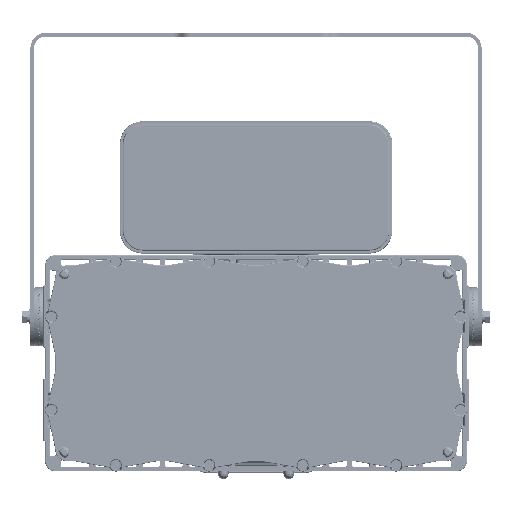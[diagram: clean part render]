
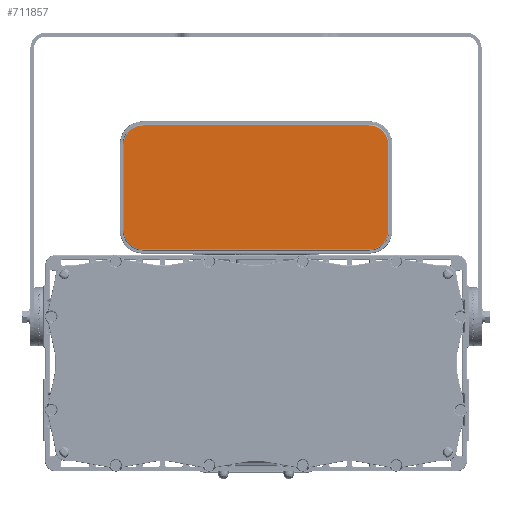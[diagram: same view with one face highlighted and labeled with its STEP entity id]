
A CAD part, front view. The second image highlights one B-rep face of the part: STEP entity #711857.
In plain terms, the highlighted planar face has unit normal (0, -1, 0).
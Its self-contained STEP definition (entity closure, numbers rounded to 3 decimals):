
#284780=DIRECTION('',(-1.,0.,0.));
#284781=VECTOR('',#284780,9.68);
#284782=CARTESIAN_POINT('',(4.84,-0.917,10.178));
#284783=LINE('',#284782,#284781);
#284784=CARTESIAN_POINT('',(4.84,-0.917,9.365));
#284785=DIRECTION('',(0.,-1.,0.));
#284786=DIRECTION('',(1.,0.,0.));
#284787=AXIS2_PLACEMENT_3D('',#284784,#284785,#284786);
#284789=DIRECTION('',(0.,0.,1.));
#284790=VECTOR('',#284789,3.68);
#284791=CARTESIAN_POINT('',(5.653,-0.917,5.685));
#284792=LINE('',#284791,#284790);
#284793=CARTESIAN_POINT('',(4.84,-0.917,5.685));
#284794=DIRECTION('',(0.,-1.,0.));
#284795=DIRECTION('',(0.,0.,-1.));
#284796=AXIS2_PLACEMENT_3D('',#284793,#284794,#284795);
#284798=DIRECTION('',(1.,0.,0.));
#284799=VECTOR('',#284798,9.68);
#284800=CARTESIAN_POINT('',(-4.84,-0.917,4.872));
#284801=LINE('',#284800,#284799);
#284802=CARTESIAN_POINT('',(-4.84,-0.917,5.685));
#284803=DIRECTION('',(0.,-1.,0.));
#284804=DIRECTION('',(-1.,0.,0.));
#284805=AXIS2_PLACEMENT_3D('',#284802,#284803,#284804);
#284807=DIRECTION('',(0.,0.,-1.));
#284808=VECTOR('',#284807,3.68);
#284809=CARTESIAN_POINT('',(-5.653,-0.917,9.365));
#284810=LINE('',#284809,#284808);
#284811=CARTESIAN_POINT('',(-4.84,-0.917,9.365));
#284812=DIRECTION('',(0.,-1.,0.));
#284813=DIRECTION('',(0.,0.,1.));
#284814=AXIS2_PLACEMENT_3D('',#284811,#284812,#284813);
#313801=CARTESIAN_POINT('',(4.84,-0.917,10.178));
#313802=CARTESIAN_POINT('',(-4.84,-0.917,10.178));
#313803=VERTEX_POINT('',#313801);
#313804=VERTEX_POINT('',#313802);
#313809=CARTESIAN_POINT('',(-5.653,-0.917,9.365));
#313810=VERTEX_POINT('',#313809);
#313813=CARTESIAN_POINT('',(-5.653,-0.917,5.685));
#313814=VERTEX_POINT('',#313813);
#313817=CARTESIAN_POINT('',(-4.84,-0.917,4.872));
#313818=VERTEX_POINT('',#313817);
#313821=CARTESIAN_POINT('',(4.84,-0.917,4.872));
#313822=VERTEX_POINT('',#313821);
#313825=CARTESIAN_POINT('',(5.653,-0.917,5.685));
#313826=VERTEX_POINT('',#313825);
#313829=CARTESIAN_POINT('',(5.653,-0.917,9.365));
#313830=VERTEX_POINT('',#313829);
#711835=CARTESIAN_POINT('',(0.,-0.917,7.525));
#711836=DIRECTION('',(0.,-1.,0.));
#711837=DIRECTION('',(-1.,0.,0.));
#711838=AXIS2_PLACEMENT_3D('',#711835,#711836,#711837);
#711839=PLANE('',#711838);
#711841=ORIENTED_EDGE('',*,*,#711840,.F.);
#711842=ORIENTED_EDGE('',*,*,#711825,.F.);
#711844=ORIENTED_EDGE('',*,*,#711843,.F.);
#711846=ORIENTED_EDGE('',*,*,#711845,.F.);
#711848=ORIENTED_EDGE('',*,*,#711847,.F.);
#711850=ORIENTED_EDGE('',*,*,#711849,.F.);
#711852=ORIENTED_EDGE('',*,*,#711851,.F.);
#711854=ORIENTED_EDGE('',*,*,#711853,.F.);
#711855=EDGE_LOOP('',(#711841,#711842,#711844,#711846,#711848,#711850,#711852,
#711854));
#711856=FACE_OUTER_BOUND('',#711855,.F.);
#711857=ADVANCED_FACE('',(#711856),#711839,.T.);
#284788=CIRCLE('',#284787,0.813);
#284797=CIRCLE('',#284796,0.813);
#284806=CIRCLE('',#284805,0.813);
#284815=CIRCLE('',#284814,0.813);
#711825=EDGE_CURVE('',#313830,#313803,#284788,.T.);
#711840=EDGE_CURVE('',#313803,#313804,#284783,.T.);
#711843=EDGE_CURVE('',#313826,#313830,#284792,.T.);
#711845=EDGE_CURVE('',#313822,#313826,#284797,.T.);
#711847=EDGE_CURVE('',#313818,#313822,#284801,.T.);
#711849=EDGE_CURVE('',#313814,#313818,#284806,.T.);
#711851=EDGE_CURVE('',#313810,#313814,#284810,.T.);
#711853=EDGE_CURVE('',#313804,#313810,#284815,.T.);
